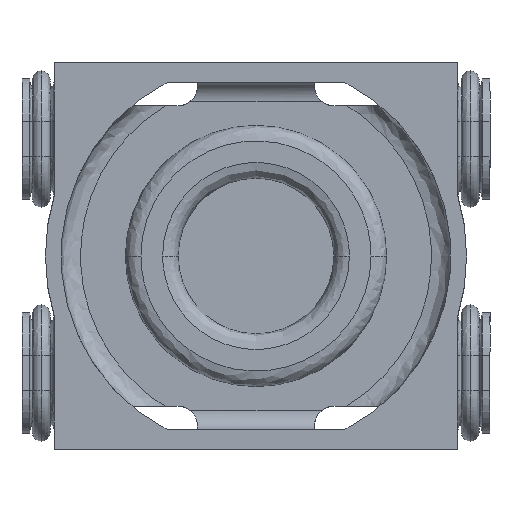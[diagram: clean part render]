
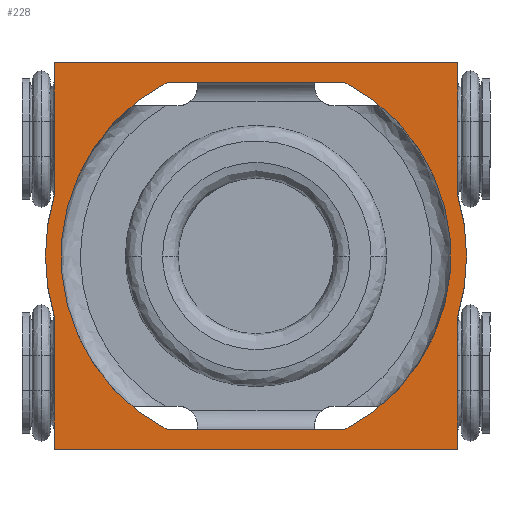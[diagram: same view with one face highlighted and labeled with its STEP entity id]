
A CAD part, front view. The second image highlights one B-rep face of the part: STEP entity #228.
In plain terms, the highlighted planar face has unit normal (0, -1, 0).
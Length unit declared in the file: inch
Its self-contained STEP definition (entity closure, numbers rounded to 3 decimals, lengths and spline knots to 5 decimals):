
#228 = ADVANCED_FACE ( 'NONE', ( #6091, #6093 ), #6741, .F. ) ;
#952 = EDGE_CURVE ( 'NONE', #2913, #2914, #14382, .T. ) ;
#967 = EDGE_CURVE ( 'NONE', #2901, #2924, #14379, .T. ) ;
#975 = EDGE_CURVE ( 'NONE', #2929, #2913, #14420, .T. ) ;
#978 = EDGE_CURVE ( 'NONE', #2917, #2931, #14425, .T. ) ;
#989 = EDGE_CURVE ( 'NONE', #2938, #2929, #14446, .T. ) ;
#993 = EDGE_CURVE ( 'NONE', #2940, #2941, #14442, .T. ) ;
#995 = EDGE_CURVE ( 'NONE', #2924, #2917, #14458, .T. ) ;
#996 = EDGE_CURVE ( 'NONE', #2901, #2936, #14460, .T. ) ;
#997 = EDGE_CURVE ( 'NONE', #2936, #2943, #14454, .T. ) ;
#998 = EDGE_CURVE ( 'NONE', #2941, #2943, #14463, .T. ) ;
#999 = EDGE_CURVE ( 'NONE', #2940, #2931, #14465, .T. ) ;
#1000 = EDGE_CURVE ( 'NONE', #2938, #2914, #14466, .T. ) ;
#2901 = VERTEX_POINT ( 'NONE', #13360 ) ;
#2913 = VERTEX_POINT ( 'NONE', #13372 ) ;
#2914 = VERTEX_POINT ( 'NONE', #13373 ) ;
#2917 = VERTEX_POINT ( 'NONE', #13376 ) ;
#2924 = VERTEX_POINT ( 'NONE', #13383 ) ;
#2929 = VERTEX_POINT ( 'NONE', #13388 ) ;
#2931 = VERTEX_POINT ( 'NONE', #13390 ) ;
#2936 = VERTEX_POINT ( 'NONE', #13395 ) ;
#2938 = VERTEX_POINT ( 'NONE', #13397 ) ;
#2940 = VERTEX_POINT ( 'NONE', #13399 ) ;
#2941 = VERTEX_POINT ( 'NONE', #13400 ) ;
#2943 = VERTEX_POINT ( 'NONE', #13402 ) ;
#5816 = AXIS2_PLACEMENT_3D ( 'NONE', #6739, #6736, #6743 ) ;
#6091 = FACE_OUTER_BOUND ( 'NONE', #8967, .T. ) ;
#6093 = FACE_BOUND ( 'NONE', #8972, .T. ) ;
#6736 = DIRECTION ( 'NONE',  ( 0., 1., 0. ) ) ;
#6739 = CARTESIAN_POINT ( 'NONE',  ( -0.67911, 0., -0.51878 ) ) ;
#6741 = PLANE ( 'NONE',  #5816 ) ;
#6743 = DIRECTION ( 'NONE',  ( 0., 0., 1. ) ) ;
#8384 = AXIS2_PLACEMENT_3D ( 'NONE', #11603, #11604, #11605 ) ;
#8386 = AXIS2_PLACEMENT_3D ( 'NONE', #11645, #11646, #11647 ) ;
#8387 = AXIS2_PLACEMENT_3D ( 'NONE', #11651, #11652, #11653 ) ;
#8388 = AXIS2_PLACEMENT_3D ( 'NONE', #11657, #11658, #11659 ) ;
#8967 = EDGE_LOOP ( 'NONE', ( #10330, #10151, #10320, #10340, #10365, #10409, #10171, #10254 ) ) ;
#8972 = EDGE_LOOP ( 'NONE', ( #10265, #10177, #10196, #10205 ) ) ;
#10151 = ORIENTED_EDGE ( 'NONE', *, *, #995, .F. ) ;
#10171 = ORIENTED_EDGE ( 'NONE', *, *, #993, .F. ) ;
#10177 = ORIENTED_EDGE ( 'NONE', *, *, #989, .F. ) ;
#10196 = ORIENTED_EDGE ( 'NONE', *, *, #1000, .T. ) ;
#10205 = ORIENTED_EDGE ( 'NONE', *, *, #952, .F. ) ;
#10254 = ORIENTED_EDGE ( 'NONE', *, *, #999, .T. ) ;
#10265 = ORIENTED_EDGE ( 'NONE', *, *, #975, .F. ) ;
#10320 = ORIENTED_EDGE ( 'NONE', *, *, #967, .F. ) ;
#10330 = ORIENTED_EDGE ( 'NONE', *, *, #978, .F. ) ;
#10340 = ORIENTED_EDGE ( 'NONE', *, *, #996, .T. ) ;
#10365 = ORIENTED_EDGE ( 'NONE', *, *, #997, .T. ) ;
#10409 = ORIENTED_EDGE ( 'NONE', *, *, #998, .F. ) ;
#11531 = CARTESIAN_POINT ( 'NONE',  ( -0.67911, 0., 0.42122 ) ) ;
#11532 = DIRECTION ( 'NONE',  ( -1., 0., 0. ) ) ;
#11550 = CARTESIAN_POINT ( 'NONE',  ( 0.35489, 0., -0.51878 ) ) ;
#11563 = DIRECTION ( 'NONE',  ( 0., 0., -1. ) ) ;
#11603 = CARTESIAN_POINT ( 'NONE',  ( -0.16211, 0., -0.02378 ) ) ;
#11604 = DIRECTION ( 'NONE',  ( 0., -1., 0. ) ) ;
#11605 = DIRECTION ( 'NONE',  ( 0., 0., -1. ) ) ;
#11608 = CARTESIAN_POINT ( 'NONE',  ( 0.35489, 0., -0.51878 ) ) ;
#11610 = DIRECTION ( 'NONE',  ( 0., 0., -1. ) ) ;
#11622 = CARTESIAN_POINT ( 'NONE',  ( -0.67911, 0., -0.51878 ) ) ;
#11627 = DIRECTION ( 'NONE',  ( -1., 0., 0. ) ) ;
#11631 = CARTESIAN_POINT ( 'NONE',  ( -0.67911, 0., -0.46878 ) ) ;
#11632 = DIRECTION ( 'NONE',  ( 1., 0., 0. ) ) ;
#11638 = CARTESIAN_POINT ( 'NONE',  ( -0.67911, 0., 0.47122 ) ) ;
#11640 = DIRECTION ( 'NONE',  ( 0., 0., 1. ) ) ;
#11643 = DIRECTION ( 'NONE',  ( 1., 0., 0. ) ) ;
#11644 = CARTESIAN_POINT ( 'NONE',  ( -0.67911, 0., -0.51878 ) ) ;
#11645 = CARTESIAN_POINT ( 'NONE',  ( -0.16211, 0., -0.02378 ) ) ;
#11646 = DIRECTION ( 'NONE',  ( 0., 1., 0. ) ) ;
#11647 = DIRECTION ( 'NONE',  ( 0., 0., -1. ) ) ;
#11648 = CARTESIAN_POINT ( 'NONE',  ( 0.35489, 0., -0.51878 ) ) ;
#11649 = DIRECTION ( 'NONE',  ( 0., 0., -1. ) ) ;
#11651 = CARTESIAN_POINT ( 'NONE',  ( -0.16211, 0., -0.02378 ) ) ;
#11652 = DIRECTION ( 'NONE',  ( 0., 1., 0. ) ) ;
#11653 = DIRECTION ( 'NONE',  ( 0., 0., -1. ) ) ;
#11657 = CARTESIAN_POINT ( 'NONE',  ( -0.16211, 0., -0.02378 ) ) ;
#11658 = DIRECTION ( 'NONE',  ( 0., 1., 0. ) ) ;
#11659 = DIRECTION ( 'NONE',  ( 0., 0., -1. ) ) ;
#13360 = CARTESIAN_POINT ( 'NONE',  ( 0.35489, 0., 0.47122 ) ) ;
#13372 = CARTESIAN_POINT ( 'NONE',  ( 0.06587, 0., 0.42122 ) ) ;
#13373 = CARTESIAN_POINT ( 'NONE',  ( -0.39009, 0., 0.42122 ) ) ;
#13376 = CARTESIAN_POINT ( 'NONE',  ( 0.35489, 0., -0.1797 ) ) ;
#13383 = CARTESIAN_POINT ( 'NONE',  ( 0.35489, 0., 0.13214 ) ) ;
#13388 = CARTESIAN_POINT ( 'NONE',  ( 0.06587, 0., -0.46878 ) ) ;
#13390 = CARTESIAN_POINT ( 'NONE',  ( 0.35489, 0., -0.51878 ) ) ;
#13395 = CARTESIAN_POINT ( 'NONE',  ( -0.67911, 0., 0.47122 ) ) ;
#13397 = CARTESIAN_POINT ( 'NONE',  ( -0.39009, 0., -0.46878 ) ) ;
#13399 = CARTESIAN_POINT ( 'NONE',  ( -0.67911, 0., -0.51878 ) ) ;
#13400 = CARTESIAN_POINT ( 'NONE',  ( -0.67911, 0., -0.1797 ) ) ;
#13402 = CARTESIAN_POINT ( 'NONE',  ( -0.67911, 0., 0.13214 ) ) ;
#14379 = LINE ( 'NONE', #11550, #14413 ) ;
#14382 = LINE ( 'NONE', #11531, #14385 ) ;
#14385 = VECTOR ( 'NONE', #11532, 39.37008 ) ;
#14413 = VECTOR ( 'NONE', #11563, 39.37008 ) ;
#14420 = CIRCLE ( 'NONE', #8384, 0.5 ) ;
#14425 = LINE ( 'NONE', #11608, #14428 ) ;
#14428 = VECTOR ( 'NONE', #11610, 39.37008 ) ;
#14442 = LINE ( 'NONE', #11622, #14457 ) ;
#14446 = LINE ( 'NONE', #11631, #14449 ) ;
#14449 = VECTOR ( 'NONE', #11632, 39.37008 ) ;
#14454 = LINE ( 'NONE', #11644, #14464 ) ;
#14457 = VECTOR ( 'NONE', #11640, 39.37008 ) ;
#14458 = CIRCLE ( 'NONE', #8386, 0.54 ) ;
#14460 = LINE ( 'NONE', #11638, #14462 ) ;
#14462 = VECTOR ( 'NONE', #11627, 39.37008 ) ;
#14463 = CIRCLE ( 'NONE', #8387, 0.54 ) ;
#14464 = VECTOR ( 'NONE', #11649, 39.37008 ) ;
#14465 = LINE ( 'NONE', #11648, #14467 ) ;
#14466 = CIRCLE ( 'NONE', #8388, 0.5 ) ;
#14467 = VECTOR ( 'NONE', #11643, 39.37008 ) ;
